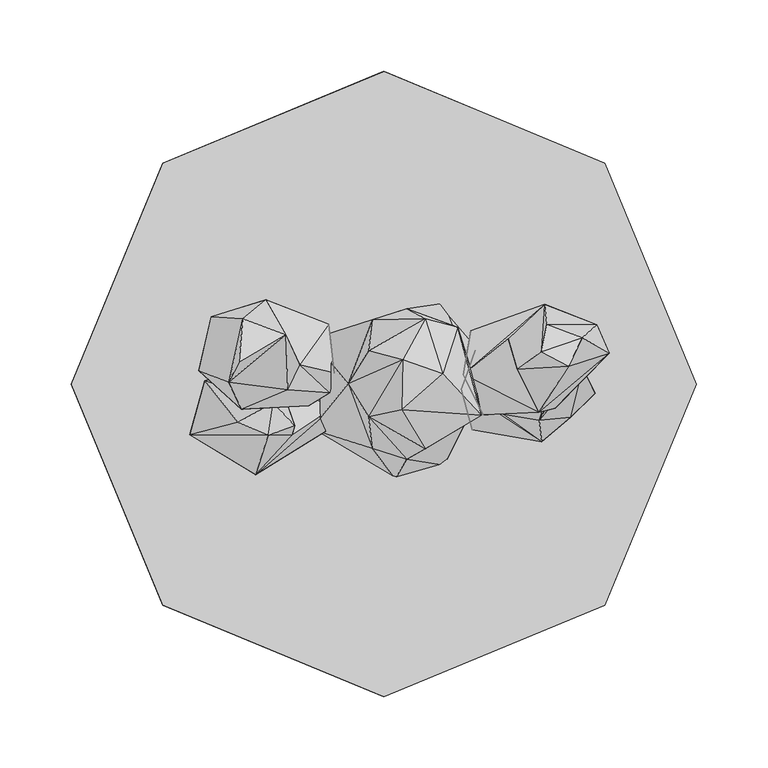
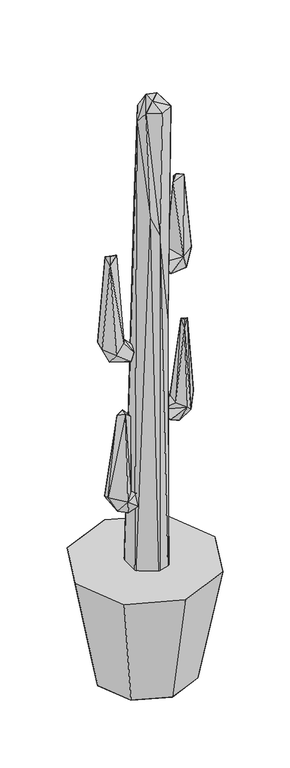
"""IFC4 building model written with IfcOpenShell, lengths in millimetres: geographic element geometry, Enscape AssetDefinition - Potted Plant 002 Cactus : Enscape AssetDefinition - Potted Plant 002 Cactus 2."""

from ifc_helpers import new_model, si_unit, origin, place, context, project, spatial, triangles, source, transform, mapped, element, save


def geographic_element_721f793b(model_context):
    return source(origin(), model_context, "Body", "Tessellation", [
        triangles([(29.2565695, -45.6493575, 1865.3041672), (16.3223628, -52.8592417, 1469.8679844), (57.5491853, -26.9754224, 1164.4228203), (76.2704354, 17.5878345, 221.9568553), (42.3822423, -57.0077848, 221.9513869), (42.3822423, 57.0077848, 221.9513869), (16.3201623, 52.8581426, 1469.7906635), (52.1461721, 39.6433288, 1862.2185997), (68.5202589, -22.288783, 1864.2598995), (64.2451656, 0.0, 1120.5849438), (41.3269515, 6.951283, 1900.0000145), (29.2554658, 45.6482584, 1865.3030045), (-10.5254102, 23.3308661, 1866.3791016), (-8.2464636, 45.1662793, 1528.7651161), (-25.070615, 0.0, 1829.6146305), (-10.5243088, -23.3319697, 1866.3802643), (13.2115096, 16.9639025, 1897.5658607), (12.6998176, -18.2128668, 1896.3643353), (-8.2431622, -45.1673784, 1528.842001), (-51.069975, 31.7445944, 221.9975869), (7.957056, -66.7816069, 221.9733696), (-51.069975, -31.7445944, 221.9975869), (-82.881687, 59.1172673, 1090.8419191), (-98.9817762, 45.7406901, 1380.3727203), (-68.7854544, 34.5869514, 1380.8898399), (-101.6997789, 15.243963, 1398.6041656), (-67.5045778, -3.9944839, 1112.2635767), (-109.034006, 1.1103126, 1380.3727203), (-100.094281, -17.7947112, 1090.3389702), (-130.0859278, 9.3765835, 1103.3832321), (-108.8568457, 5.2500503, 1057.5863909), (-52.9208568, -15.4266315, 1052.1525656), (-37.8364578, -6.1325784, 1073.095546), (-41.1971038, 36.6249061, 1052.1525656), (-100.5575612, 41.8947629, 1057.5512186), (-121.4631256, 47.4199162, 1102.8637871), (-38.7365936, 42.0257142, 1079.7463755), (-34.6947913, 7.8140029, 1058.7990349), (-59.0325341, 13.3380553, 1113.6764265), (-34.6947913, 7.8140029, 1087.392057), (109.0813323, -20.0076314, 1346.5789982), (94.0167359, 10.108356, 1581.7816475), (87.6871713, 31.7985133, 1353.8814594), (120.4738601, -17.0288252, 1306.8014843), (129.9153623, 12.4885387, 1593.9596832), (110.8232773, 22.6728235, 1595.5544987), (55.7302057, 6.6640753, 1328.8008682), (113.0615036, 55.8589542, 1332.5994736), (139.5208443, 32.321208, 1576.6073994), (158.663553, 21.6824565, 1337.7449444), (149.9230073, 41.6493746, 1339.8709774), (114.7396261, 42.0719278, 1576.8130554), (122.3368459, 35.1987758, 1295.8788952), (55.7302057, 6.6640753, 1298.7948509), (61.1012986, 37.2312326, 1304.4466862), (102.4689634, 14.9347488, 1282.4945377), (69.8605568, -21.7297715, 1304.8119255), (84.1372608, -21.322622, 871.1011894), (131.4823451, -23.226328, 833.7435133), (109.3344146, -25.3842291, 1115.2357063), (116.8249004, -11.8833147, 1132.0873667), (86.7177174, 13.109171, 873.771884), (54.5505675, -3.6016382, 848.607795), (123.2810016, 18.0412021, 1114.717424), (129.8207278, 25.2917952, 852.1049652), (139.997305, 10.9105531, 1115.1895609), (148.5595822, -6.6607745, 880.5009064), (54.5505675, -3.6016382, 820.9556311), (64.4080281, 23.8612661, 840.9489601), (131.2534619, 12.1749234, 832.2985434), (92.0414931, -28.8560216, 814.4389503), (63.0754287, 14.3559336, 813.620323), (62.2402235, -32.2100661, 829.1855793), (111.0070415, -40.5060532, 857.7819443), (-35.8117063, -16.7834357, 609.9235268), (-90.0640702, -63.6223384, 627.5257227), (-74.6011196, -38.7431975, 571.2860232), (-64.5048608, -35.7797973, 638.1029114), (-40.2199424, -32.8020857, 577.1501275), (-136.3461652, -35.7654904, 641.0486618), (-125.8933785, 2.2591394, 618.7862852), (-113.9572429, -48.7899271, 595.8273305), (-39.4386538, -2.955698, 585.1621748), (-40.7657439, 2.1061826, 604.6911427), (-90.555937, 10.7686014, 631.2956961), (-78.7089402, 16.1848145, 590.35172), (-102.7198656, -26.9446103, 898.3616621), (-77.7581807, -13.0607535, 899.2166971), (-83.5089289, -21.9058372, 567.3037082), (-81.3818331, -36.0658991, 899.7844677), (-69.911176, -8.2783754, 668.7437737), (-62.5791517, -29.4150309, 882.4453371), (149.1461016, 0.0, 0.0), (0.0, 0.0, 0.0), (105.4620856, -105.4620856, 0.0), (0.0, 219.8528777, 365.4325999), (105.4620856, 105.4620856, 0.0), (155.4591701, 155.4591701, 365.4325999), (219.8528777, 0.0, 365.4325999), (155.4591701, -155.4591701, 365.4325999), (0.0, -149.1461016, 0.0), (0.0, -219.8528777, 365.4325999), (0.0, 0.0, 365.4325999), (-155.4591701, 155.4591701, 365.4325999), (0.0, 149.1461016, 0.0), (-219.8528777, 0.0, 365.4325999), (-149.1461016, 0.0, 0.0), (-105.4620856, 105.4620856, 0.0), (-155.4591701, -155.4591701, 365.4325999), (-105.4620856, -105.4620856, 0.0)], [[110, 107, 94], [101, 110, 94], [110, 101, 102], [110, 102, 109], [107, 110, 109], [107, 109, 106], [107, 108, 94], [108, 107, 106], [108, 105, 94], [108, 106, 104], [105, 108, 104], [105, 104, 96], [109, 102, 103], [106, 109, 103], [104, 106, 103], [96, 104, 103], [102, 100, 103], [101, 100, 102], [95, 101, 94], [101, 95, 100], [100, 99, 103], [95, 99, 100], [98, 96, 103], [99, 98, 103], [105, 97, 94], [97, 96, 98], [97, 105, 96], [93, 95, 94], [97, 93, 94], [95, 93, 99], [93, 98, 99], [93, 97, 98], [83, 86, 84], [83, 89, 86], [78, 92, 90], [91, 92, 78], [88, 92, 91], [88, 90, 92], [87, 90, 88], [89, 81, 86], [87, 88, 81], [84, 86, 85], [86, 81, 85], [91, 78, 85], [88, 85, 81], [88, 91, 85], [84, 85, 75], [85, 78, 75], [79, 83, 75], [77, 83, 79], [77, 89, 83], [82, 89, 77], [89, 82, 81], [80, 90, 87], [80, 81, 82], [87, 81, 80], [76, 77, 79], [78, 90, 76], [78, 76, 75], [76, 82, 77], [76, 79, 75], [76, 80, 82], [76, 90, 80], [73, 74, 63], [68, 73, 63], [68, 71, 73], [71, 74, 73], [72, 71, 68], [72, 70, 71], [63, 69, 68], [69, 72, 68], [62, 69, 63], [72, 65, 70], [62, 65, 69], [65, 72, 69], [65, 67, 70], [71, 59, 74], [67, 59, 70], [71, 70, 59], [65, 66, 67], [66, 59, 67], [61, 66, 64], [64, 66, 65], [62, 64, 65], [58, 62, 63], [58, 64, 62], [74, 58, 63], [61, 60, 66], [60, 61, 64], [60, 74, 59], [66, 60, 59], [60, 64, 58], [60, 58, 74], [56, 44, 57], [57, 47, 54], [56, 57, 54], [55, 54, 47], [53, 54, 55], [53, 44, 56], [53, 56, 54], [53, 50, 44], [53, 51, 50], [48, 51, 53], [48, 55, 47], [48, 53, 55], [52, 51, 48], [52, 49, 51], [49, 50, 51], [50, 49, 45], [52, 46, 49], [49, 46, 45], [46, 52, 48], [43, 48, 47], [46, 48, 43], [42, 46, 43], [42, 45, 46], [57, 41, 47], [50, 41, 44], [45, 42, 41], [44, 41, 57], [50, 45, 41], [41, 43, 47], [41, 42, 43], [37, 23, 39], [37, 39, 40], [38, 37, 40], [38, 34, 37], [34, 23, 37], [36, 23, 35], [34, 35, 23], [31, 35, 34], [32, 34, 38], [31, 34, 32], [33, 32, 38], [39, 33, 40], [29, 31, 32], [29, 32, 33], [29, 30, 31], [31, 30, 35], [30, 36, 35], [24, 23, 36], [24, 36, 30], [26, 24, 28], [29, 28, 30], [30, 28, 24], [39, 27, 33], [27, 29, 33], [27, 28, 29], [39, 25, 27], [26, 28, 25], [24, 26, 25], [24, 25, 23], [27, 25, 28], [25, 39, 23], [21, 2, 19], [21, 19, 22], [22, 15, 20], [22, 19, 15], [2, 16, 19], [19, 16, 15], [2, 1, 16], [1, 18, 16], [9, 18, 1], [9, 11, 18], [16, 18, 17], [16, 17, 15], [18, 11, 17], [13, 15, 17], [14, 15, 13], [6, 20, 14], [20, 15, 14], [13, 17, 12], [12, 17, 11], [14, 13, 12], [12, 11, 8], [8, 11, 9], [7, 12, 8], [7, 14, 12], [6, 14, 7], [6, 10, 4], [10, 8, 9], [10, 6, 7], [10, 7, 8], [5, 2, 21], [5, 4, 10], [5, 10, 3], [10, 9, 3], [3, 9, 1], [3, 1, 2], [3, 2, 5]], closed=False),
    ])


if __name__ == "__main__":
    model = new_model("IFC4")
    model_context = context("Model", 3, world=origin())
    ifc_project = project(units=[si_unit("LENGTHUNIT", "METRE", prefix="MILLI")], contexts=[model_context])
    site = spatial("IfcSite", under=ifc_project)
    building = spatial("IfcBuilding", under=site)
    placement = place(None, origin())
    geographic_element_shape = geographic_element_721f793b(model_context)
    element("IfcGeographicElement", 1, ObjectType="Enscape AssetDefinition - Potted Plant 002 Cactus : Enscape AssetDefinition - Potted Plant 002 Cactus 2", at=placement, inside=building, context=model_context, shape_type="MappedRepresentation", body=[
        mapped(geographic_element_shape, transform((0.0, 0.0, 0.0), x_axis=(1.0, 0.0, 0.0), y_axis=(0.0, 1.0, 0.0), z_axis=(0.0, 0.0, 1.0))),
    ])
    save(model, "model.ifc")
